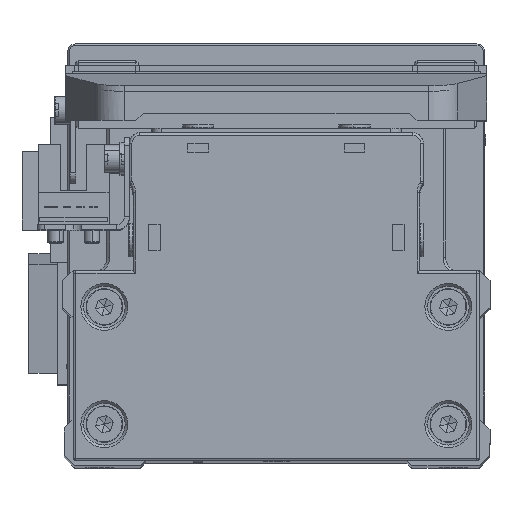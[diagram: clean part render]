
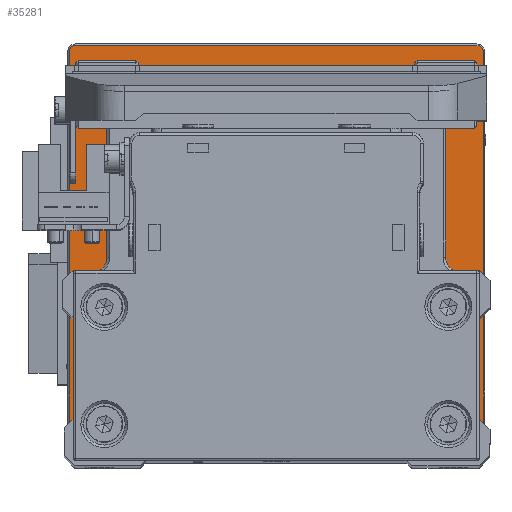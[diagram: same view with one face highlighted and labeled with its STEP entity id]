
A CAD part, top view. The second image highlights one B-rep face of the part: STEP entity #35281.
In plain terms, the highlighted planar face has unit normal (0, 0, 1) as drawn and (0, 1, 0) by its records, which use the part's own axes.
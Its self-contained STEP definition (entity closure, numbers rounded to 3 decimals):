
#50 = ORIENTED_EDGE ( 'NONE', *, *, #38725, .T. ) ;
#320 = AXIS2_PLACEMENT_3D ( 'NONE', #7274, #19315, #31350 ) ;
#778 = DIRECTION ( 'NONE',  ( 0., -1., 0. ) ) ;
#1730 = VERTEX_POINT ( 'NONE', #23600 ) ;
#2060 = CARTESIAN_POINT ( 'NONE',  ( 38.5, 12., -39.7 ) ) ;
#2330 = CARTESIAN_POINT ( 'NONE',  ( -39.7, 12., -38.5 ) ) ;
#2640 = VECTOR ( 'NONE', #27514, 1000. ) ;
#2777 = DIRECTION ( 'NONE',  ( 0., 0., -1. ) ) ;
#3447 = LINE ( 'NONE', #15475, #2640 ) ;
#3718 = FACE_BOUND ( 'NONE', #34542, .T. ) ;
#3916 = EDGE_CURVE ( 'NONE', #1730, #16538, #4769, .T. ) ;
#4450 = ORIENTED_EDGE ( 'NONE', *, *, #3916, .T. ) ;
#4769 = LINE ( 'NONE', #16798, #15163 ) ;
#5771 = DIRECTION ( 'NONE',  ( 0., 1., 0. ) ) ;
#6476 = CARTESIAN_POINT ( 'NONE',  ( 0., 12., -39.7 ) ) ;
#6614 = CARTESIAN_POINT ( 'NONE',  ( -39.7, 12., 38.5 ) ) ;
#6719 = AXIS2_PLACEMENT_3D ( 'NONE', #27807, #778, #12803 ) ;
#7190 = CARTESIAN_POINT ( 'NONE',  ( 0., 12., -20.5 ) ) ;
#7274 = CARTESIAN_POINT ( 'NONE',  ( 0., 12., 0. ) ) ;
#7301 = DIRECTION ( 'NONE',  ( 0., 1., 0. ) ) ;
#8493 = VERTEX_POINT ( 'NONE', #29027 ) ;
#8522 = DIRECTION ( 'NONE',  ( 0., 1., 0. ) ) ;
#8549 = DIRECTION ( 'NONE',  ( 0., 0., -1. ) ) ;
#8807 = VERTEX_POINT ( 'NONE', #16702 ) ;
#9113 = VERTEX_POINT ( 'NONE', #6614 ) ;
#9480 = EDGE_CURVE ( 'NONE', #8807, #34901, #23564, .T. ) ;
#9514 = CARTESIAN_POINT ( 'NONE',  ( 0., 12., 0. ) ) ;
#9985 = CIRCLE ( 'NONE', #15014, 1.2 ) ;
#11952 = ORIENTED_EDGE ( 'NONE', *, *, #9480, .T. ) ;
#12128 = VERTEX_POINT ( 'NONE', #2330 ) ;
#12803 = DIRECTION ( 'NONE',  ( 0., 0., -1. ) ) ;
#13256 = VECTOR ( 'NONE', #18520, 1000. ) ;
#15004 = EDGE_LOOP ( 'NONE', ( #22367, #29504, #35814, #50, #22265, #4450, #19408, #11952 ) ) ;
#15014 = AXIS2_PLACEMENT_3D ( 'NONE', #32790, #5771, #17826 ) ;
#15163 = VECTOR ( 'NONE', #28830, 1000. ) ;
#15475 = CARTESIAN_POINT ( 'NONE',  ( -39.7, 12., 0. ) ) ;
#15747 = PLANE ( 'NONE',  #6719 ) ;
#15849 = ORIENTED_EDGE ( 'NONE', *, *, #32332, .F. ) ;
#15961 = CIRCLE ( 'NONE', #37995, 1.2 ) ;
#16529 = EDGE_CURVE ( 'NONE', #34901, #17882, #34722, .T. ) ;
#16538 = VERTEX_POINT ( 'NONE', #20931 ) ;
#16681 = CIRCLE ( 'NONE', #38716, 20.5 ) ;
#16702 = CARTESIAN_POINT ( 'NONE',  ( 39.7, 12., 38.5 ) ) ;
#16798 = CARTESIAN_POINT ( 'NONE',  ( 0., 12., 39.7 ) ) ;
#17752 = AXIS2_PLACEMENT_3D ( 'NONE', #17787, #29829, #2777 ) ;
#17787 = CARTESIAN_POINT ( 'NONE',  ( 38.5, 12., -38.5 ) ) ;
#17826 = DIRECTION ( 'NONE',  ( 0., 0., -1. ) ) ;
#17882 = VERTEX_POINT ( 'NONE', #2060 ) ;
#18076 = CARTESIAN_POINT ( 'NONE',  ( 0., 12., 20.5 ) ) ;
#18520 = DIRECTION ( 'NONE',  ( -1., 0., 0. ) ) ;
#18589 = ORIENTED_EDGE ( 'NONE', *, *, #33840, .F. ) ;
#19315 = DIRECTION ( 'NONE',  ( 0., 1., 0. ) ) ;
#19341 = DIRECTION ( 'NONE',  ( 0., 0., -1. ) ) ;
#19408 = ORIENTED_EDGE ( 'NONE', *, *, #30849, .T. ) ;
#20559 = DIRECTION ( 'NONE',  ( 0., 0., -1. ) ) ;
#20836 = EDGE_CURVE ( 'NONE', #9113, #1730, #34163, .T. ) ;
#20931 = CARTESIAN_POINT ( 'NONE',  ( 38.5, 12., 39.7 ) ) ;
#21559 = DIRECTION ( 'NONE',  ( 0., 1., 0. ) ) ;
#22218 = AXIS2_PLACEMENT_3D ( 'NONE', #34313, #7301, #19341 ) ;
#22265 = ORIENTED_EDGE ( 'NONE', *, *, #20836, .T. ) ;
#22367 = ORIENTED_EDGE ( 'NONE', *, *, #16529, .T. ) ;
#23564 = LINE ( 'NONE', #35558, #35438 ) ;
#23600 = CARTESIAN_POINT ( 'NONE',  ( -38.5, 12., 39.7 ) ) ;
#25314 = VERTEX_POINT ( 'NONE', #7190 ) ;
#27514 = DIRECTION ( 'NONE',  ( 0., 0., 1. ) ) ;
#27807 = CARTESIAN_POINT ( 'NONE',  ( 0., 12., 0. ) ) ;
#28226 = CARTESIAN_POINT ( 'NONE',  ( 39.7, 12., -38.5 ) ) ;
#28330 = EDGE_CURVE ( 'NONE', #17882, #8493, #33502, .T. ) ;
#28761 = VERTEX_POINT ( 'NONE', #18076 ) ;
#28830 = DIRECTION ( 'NONE',  ( 1., 0., 0. ) ) ;
#29027 = CARTESIAN_POINT ( 'NONE',  ( -38.5, 12., -39.7 ) ) ;
#29504 = ORIENTED_EDGE ( 'NONE', *, *, #28330, .T. ) ;
#29829 = DIRECTION ( 'NONE',  ( 0., 1., 0. ) ) ;
#30758 = FACE_OUTER_BOUND ( 'NONE', #15004, .T. ) ;
#30849 = EDGE_CURVE ( 'NONE', #16538, #8807, #15961, .T. ) ;
#31350 = DIRECTION ( 'NONE',  ( 0., 0., 1. ) ) ;
#32332 = EDGE_CURVE ( 'NONE', #28761, #25314, #16681, .T. ) ;
#32790 = CARTESIAN_POINT ( 'NONE',  ( -38.5, 12., -38.5 ) ) ;
#33502 = LINE ( 'NONE', #6476, #13256 ) ;
#33578 = DIRECTION ( 'NONE',  ( 0., 0., 1. ) ) ;
#33840 = EDGE_CURVE ( 'NONE', #25314, #28761, #34322, .T. ) ;
#34163 = CIRCLE ( 'NONE', #22218, 1.2 ) ;
#34313 = CARTESIAN_POINT ( 'NONE',  ( -38.5, 12., 38.5 ) ) ;
#34322 = CIRCLE ( 'NONE', #320, 20.5 ) ;
#34542 = EDGE_LOOP ( 'NONE', ( #15849, #18589 ) ) ;
#34722 = CIRCLE ( 'NONE', #17752, 1.2 ) ;
#34901 = VERTEX_POINT ( 'NONE', #28226 ) ;
#35281 = ADVANCED_FACE ( 'NONE', ( #30758, #3718 ), #15747, .F. ) ;
#35438 = VECTOR ( 'NONE', #8549, 1000. ) ;
#35536 = CARTESIAN_POINT ( 'NONE',  ( 38.5, 12., 38.5 ) ) ;
#35558 = CARTESIAN_POINT ( 'NONE',  ( 39.7, 12., 0. ) ) ;
#35814 = ORIENTED_EDGE ( 'NONE', *, *, #37693, .T. ) ;
#37693 = EDGE_CURVE ( 'NONE', #8493, #12128, #9985, .T. ) ;
#37995 = AXIS2_PLACEMENT_3D ( 'NONE', #35536, #8522, #20559 ) ;
#38716 = AXIS2_PLACEMENT_3D ( 'NONE', #9514, #21559, #33578 ) ;
#38725 = EDGE_CURVE ( 'NONE', #12128, #9113, #3447, .T. ) ;
